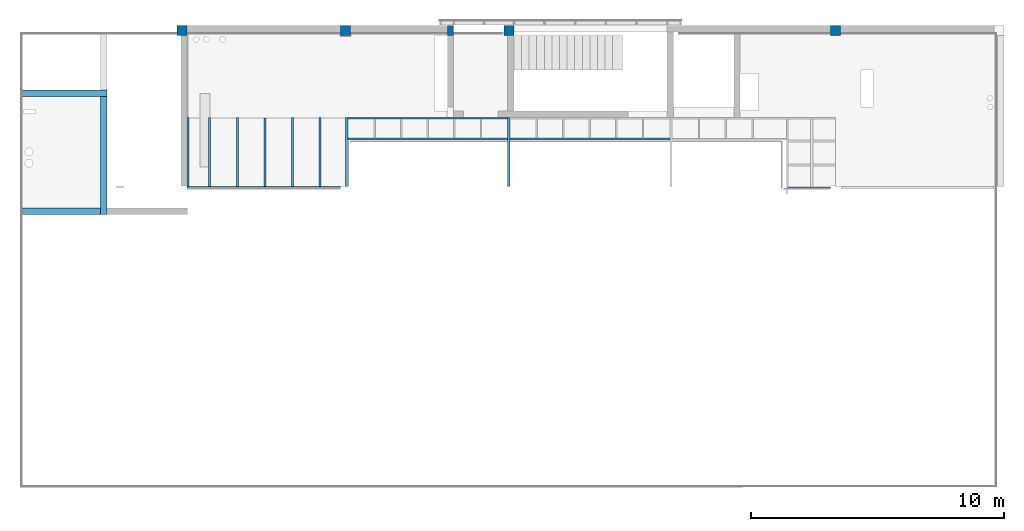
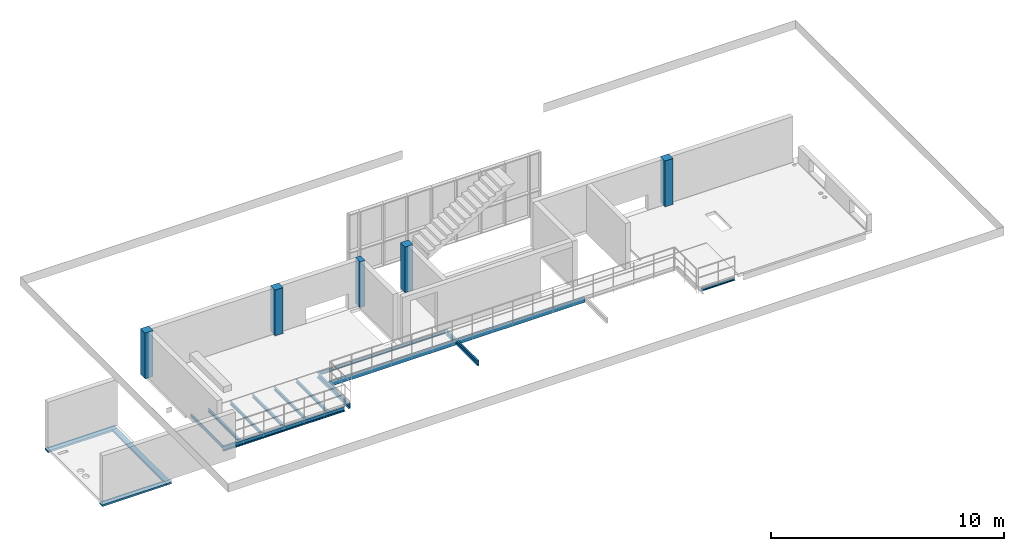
# One storey, part 1 of 8: 16 beams, 5 columns.
"""IFC2X3 building model written with IfcOpenShell, lengths in centimetres."""

from ifc_helpers import new_model, entity, si_unit, converted_unit, derived_unit, direction, frame, frame_2d, origin, origin_2d_with_axis, place, context, subcontext, project, spatial, polyline, circle_curve, parameter, trimmed, segment, composite_curve, rectangle, i_section, outline, extrude, source, transform, mapped, material, type_object, type_shapes, element, save


model = new_model("IFC2X3")

# Units and contexts
model_context = context("Model", 3, precision=0.001, world=origin(), true_north=direction((6.12303176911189e-17, 1.0)))
body_context = subcontext(model_context, "Body", "Model", "MODEL_VIEW")
ifc_project = project(units=[si_unit("LENGTHUNIT", "METRE", prefix="CENTI"), si_unit("AREAUNIT", "SQUARE_METRE"), si_unit("VOLUMEUNIT", "CUBIC_METRE"), converted_unit("PLANEANGLEUNIT", "DEGREE", entity("IfcRatioMeasure", 0.0174532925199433), si_unit("PLANEANGLEUNIT", "RADIAN"), dimensions=[0, 0, 0, 0, 0, 0, 0]), si_unit("MASSUNIT", "GRAM", prefix="KILO"), derived_unit("MASSDENSITYUNIT", [(si_unit("MASSUNIT", "GRAM", prefix="KILO"), 1), (si_unit("LENGTHUNIT", "METRE"), -3)]), derived_unit("MOMENTOFINERTIAUNIT", [(si_unit("LENGTHUNIT", "METRE"), 4)]), si_unit("TIMEUNIT", "SECOND"), si_unit("FREQUENCYUNIT", "HERTZ"), si_unit("THERMODYNAMICTEMPERATUREUNIT", "DEGREE_CELSIUS"), derived_unit("THERMALTRANSMITTANCEUNIT", [(si_unit("MASSUNIT", "GRAM", prefix="KILO"), 1), (si_unit("THERMODYNAMICTEMPERATUREUNIT", "KELVIN"), -1), (si_unit("TIMEUNIT", "SECOND"), -3)]), derived_unit("VOLUMETRICFLOWRATEUNIT", [(si_unit("LENGTHUNIT", "METRE"), 3), (si_unit("TIMEUNIT", "SECOND"), -1)]), si_unit("ELECTRICCURRENTUNIT", "AMPERE"), si_unit("ELECTRICVOLTAGEUNIT", "VOLT"), si_unit("POWERUNIT", "WATT"), si_unit("FORCEUNIT", "NEWTON", prefix="KILO"), si_unit("ILLUMINANCEUNIT", "LUX"), si_unit("LUMINOUSFLUXUNIT", "LUMEN"), si_unit("LUMINOUSINTENSITYUNIT", "CANDELA"), derived_unit("USERDEFINED", [(si_unit("MASSUNIT", "GRAM", prefix="KILO"), -1), (si_unit("LENGTHUNIT", "METRE"), -2), (si_unit("TIMEUNIT", "SECOND"), 3), (si_unit("LUMINOUSFLUXUNIT", "LUMEN"), 1)]), derived_unit("LINEARVELOCITYUNIT", [(si_unit("LENGTHUNIT", "METRE"), 1), (si_unit("TIMEUNIT", "SECOND"), -1)]), si_unit("PRESSUREUNIT", "PASCAL"), derived_unit("USERDEFINED", [(si_unit("LENGTHUNIT", "METRE"), -2), (si_unit("MASSUNIT", "GRAM", prefix="KILO"), 1), (si_unit("TIMEUNIT", "SECOND"), -2)]), derived_unit("LINEARFORCEUNIT", [(si_unit("MASSUNIT", "GRAM", prefix="KILO"), 1), (si_unit("LENGTHUNIT", "METRE"), 1), (si_unit("TIMEUNIT", "SECOND"), -2), (si_unit("LENGTHUNIT", "METRE"), -1)]), derived_unit("PLANARFORCEUNIT", [(si_unit("MASSUNIT", "GRAM", prefix="KILO"), 1), (si_unit("LENGTHUNIT", "METRE"), 1), (si_unit("TIMEUNIT", "SECOND"), -2), (si_unit("LENGTHUNIT", "METRE"), -2)])], contexts=[model_context])

# Site, building, storey
site_placement = place(None, origin())
site = spatial("IfcSite", under=ifc_project, at=site_placement, Name="Default", CompositionType="ELEMENT")
building_placement = place(site_placement, origin())
building = spatial("IfcBuilding", under=site, at=building_placement, CompositionType="ELEMENT")
storey_placement = place(building_placement, frame((0.0, 0.0, 290.0)))
storey = spatial("IfcBuildingStorey", under=building, at=storey_placement, Name="Poziom Antresola +2,90", CompositionType="ELEMENT", Elevation=290.0)

# Columns
ifc_material_1 = material(Name="_Beton, C25/30")
column_type_1 = type_object("IfcColumnType", Name="Beton-słup prostokątny:Słup żelbetowy 40x40cm", PredefinedType="COLUMN", material=ifc_material_1)
shared_shape_1 = source(origin(), body_context, "Body", "SweptSolid", [
    extrude(rectangle(XDim=40.0, YDim=40.0, at=origin_2d_with_axis()), frame((-979.265108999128, 2085.1274520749, 290.0), z_axis=(0.0, 0.0, 1.0), x_axis=(0.0, -1.0, 0.0)), (0.0, 0.0, 1.0), 239.999999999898),
])
type_shapes(column_type_1, [shared_shape_1])
column_1_placement = place(storey_placement, frame((0.0, 0.0, -290.0)))
element("IfcColumn", 1, at=column_1_placement, inside=storey, type_object=column_type_1, Name="Beton-słup prostokątny:Słup żelbetowy 40x40cm", ObjectType="Beton-słup prostokątny:Słup żelbetowy 40x40cm", context=body_context, shape_type="MappedRepresentation", body=[
    mapped(shared_shape_1, transform((0.0, 0.0, 0.0), scale=1.0)),
])
column_type_2 = type_object("IfcColumnType", Name="Beton-słup prostokątny:Słup żelbetowy 40x40cm", PredefinedType="COLUMN", material=ifc_material_1)
shared_shape_2 = source(origin(), body_context, "Body", "SweptSolid", [
    extrude(rectangle(XDim=40.0, YDim=40.0, at=frame_2d((0.0, -2.16715534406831e-13), x_axis=(1.0, 0.0))), frame((-2269.26510657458, 2085.12745207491, 290.0), z_axis=(0.0, 0.0, 1.0), x_axis=(0.0, -1.0, 0.0)), (0.0, 0.0, 1.0), 239.999999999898),
])
type_shapes(column_type_2, [shared_shape_2])
column_2_placement = place(storey_placement, frame((0.0, 0.0, -290.0)))
element("IfcColumn", 2, at=column_2_placement, inside=storey, type_object=column_type_2, Name="Beton-słup prostokątny:Słup żelbetowy 40x40cm", ObjectType="Beton-słup prostokątny:Słup żelbetowy 40x40cm", context=body_context, shape_type="MappedRepresentation", body=[
    mapped(shared_shape_2, transform((0.0, 0.0, 0.0), scale=1.0)),
])
column_type_3 = type_object("IfcColumnType", Name="Beton-słup prostokątny:Słup żelbetowy 40x40cm", PredefinedType="COLUMN", material=ifc_material_1)
shared_shape_3 = source(origin(), body_context, "Body", "SweptSolid", [
    extrude(rectangle(XDim=40.0, YDim=40.0, at=frame_2d((2.16715534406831e-13, 0.0), x_axis=(1.0, 0.0))), frame((-1624.26510899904, 2085.12745207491, 290.0), z_axis=(0.0, 0.0, 1.0), x_axis=(0.0, -1.0, 0.0)), (0.0, 0.0, 1.0), 239.999999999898),
])
type_shapes(column_type_3, [shared_shape_3])
column_3_placement = place(storey_placement, frame((0.0, 0.0, -290.0)))
element("IfcColumn", 3, at=column_3_placement, inside=storey, type_object=column_type_3, Name="Beton-słup prostokątny:Słup żelbetowy 40x40cm", ObjectType="Beton-słup prostokątny:Słup żelbetowy 40x40cm", context=body_context, shape_type="MappedRepresentation", body=[
    mapped(shared_shape_3, transform((0.0, 0.0, 0.0), scale=1.0)),
])
column_type_4 = type_object("IfcColumnType", Name="Beton-słup prostokątny:Słup żelbetowy 40x40cm", PredefinedType="COLUMN", material=ifc_material_1)
shared_shape_4 = source(origin(), body_context, "Body", "SweptSolid", [
    extrude(rectangle(XDim=40.0, YDim=40.0, at=origin_2d_with_axis()), frame((310.734891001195, 2085.1274520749, 290.0), z_axis=(0.0, 0.0, 1.0), x_axis=(0.0, -1.0, 0.0)), (0.0, 0.0, 1.0), 239.999999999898),
])
type_shapes(column_type_4, [shared_shape_4])
column_4_placement = place(storey_placement, frame((0.0, 0.0, -290.0)))
element("IfcColumn", 4, at=column_4_placement, inside=storey, type_object=column_type_4, Name="Beton-słup prostokątny:Słup żelbetowy 40x40cm", ObjectType="Beton-słup prostokątny:Słup żelbetowy 40x40cm", context=body_context, shape_type="MappedRepresentation", body=[
    mapped(shared_shape_4, transform((0.0, 0.0, 0.0), scale=1.0)),
])
column_type_5 = type_object("IfcColumnType", Name="Beton-słup prostokątny:Słup 25 x 40 cm", PredefinedType="COLUMN", material=ifc_material_1)
shared_shape_5 = source(origin(), body_context, "Body", "SweptSolid", [
    extrude(rectangle(XDim=40.0, YDim=24.9999999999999, at=frame_2d((2.16715534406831e-13, 0.0), x_axis=(1.0, 0.0))), frame((-1209.26508927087, 2085.12745207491, 290.0), z_axis=(0.0, 0.0, 1.0), x_axis=(0.0, -1.0, 0.0)), (0.0, 0.0, 1.0), 239.999999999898),
])
type_shapes(column_type_5, [shared_shape_5])
column_5_placement = place(storey_placement, frame((0.0, 0.0, -290.0)))
element("IfcColumn", 5, at=column_5_placement, inside=storey, type_object=column_type_5, Name="Beton-słup prostokątny:Słup 25 x 40 cm", ObjectType="Beton-słup prostokątny:Słup 25 x 40 cm", context=body_context, shape_type="MappedRepresentation", body=[
    mapped(shared_shape_5, transform((0.0, 0.0, 0.0), scale=1.0)),
])

# Beams
ifc_material_2 = material(Name="_Beton C30/37")
beam_type_1 = type_object("IfcBeamType", Name="Beton-belka prostokątna:BELKA ŻELBETOWA 10x25", PredefinedType="NOTDEFINED")
beam_1_placement = place(storey_placement, frame((-2921.76510525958, 1837.5274520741, -25.0)))
element("IfcBeam", 6, at=beam_1_placement, inside=storey, type_object=beam_type_1, material=ifc_material_2, Name="Beton-belka prostokątna:BELKA ŻELBETOWA 10x25", ObjectType="Beton-belka prostokątna:BELKA ŻELBETOWA 10x25", context=body_context, shape_type="SweptSolid", body=[
    extrude(rectangle(XDim=10.0, YDim=25.0000000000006, at=frame_2d((0.0, 9.74331726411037e-13), x_axis=(1.0, 0.0))), frame((12.4999999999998, 0.0, 5.0), z_axis=(1.0, 0.0, 0.0), x_axis=(0.0, 0.0, -1.0)), (0.0, 0.0, 1.0), 343.49998874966),
])
beam_2_placement = place(storey_placement, frame((-2578.26511650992, 1835.12745234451, -25.0), z_axis=(0.0, 0.0, 1.0), x_axis=(0.0, -1.0, 0.0)))
element("IfcBeam", 7, at=beam_2_placement, inside=storey, type_object=beam_type_1, material=ifc_material_2, Name="Beton-belka prostokątna:BELKA ŻELBETOWA 10x25", ObjectType="Beton-belka prostokątna:BELKA ŻELBETOWA 10x25", context=body_context, shape_type="SweptSolid", body=[
    extrude(rectangle(XDim=10.0, YDim=25.0000000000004, at=origin_2d_with_axis()), frame((10.1000002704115, 0.0, 5.0), z_axis=(1.0, 0.0, 0.0), x_axis=(0.0, 0.0, -1.0)), (0.0, 0.0, 1.0), 465.899999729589),
])
beam_3_placement = place(storey_placement, frame((-2590.76511650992, 1371.62745072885, -25.0), z_axis=(0.0, 0.0, 1.0), x_axis=(-1.0, 0.0, 0.0)))
element("IfcBeam", 8, at=beam_3_placement, inside=storey, type_object=beam_type_1, material=ifc_material_2, Name="Beton-belka prostokątna:BELKA ŻELBETOWA 10x25", ObjectType="Beton-belka prostokątna:BELKA ŻELBETOWA 10x25", context=body_context, shape_type="SweptSolid", body=[
    extrude(rectangle(XDim=10.0, YDim=25.0000000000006, at=frame_2d((0.0, 1.19104726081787e-12), x_axis=(1.0, 0.0))), frame((0.0, 0.0, 5.0), z_axis=(1.0, 0.0, 0.0), x_axis=(0.0, 0.0, -1.0)), (0.0, 0.0, 1.0), 318.499987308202),
])
ifc_material_3 = material(Name="Stal konstrukcyjna - S235")
beam_type_2 = type_object("IfcBeamType", Name="C:C260", PredefinedType="NOTDEFINED")
beam_4_placement = place(storey_placement, frame((-1642.45028865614, 1467.76745194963, 0.0), z_axis=(0.0, 0.0, 1.0), x_axis=(-1.0, 0.0, 0.0)))
element("IfcBeam", 9, at=beam_4_placement, inside=storey, type_object=beam_type_2, material=ifc_material_3, Name="C:C260", ObjectType="C:C260", context=body_context, shape_type="SweptSolid", body=[
    extrude(outline(composite_curve([segment(polyline([(-13.0, -4.94070434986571), (13.0, -4.94070434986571)]), True, "CONTINUOUS"), segment(polyline([(13.0, -4.94070434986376), (13.0, 4.05929565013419)]), True, "CONTINUOUS"), segment(polyline([(13.0, 4.05929565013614), (12.6059708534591, 4.05929565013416)]), True, "CONTINUOUS"), segment(trimmed(circle_curve(frame_2d((12.6059708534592, 3.35929565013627), x_axis=(0.0, 1.0)), 0.700000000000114), [parameter(0.0)], [parameter(85.4299999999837)], True, "PARAMETER"), True, "CONTINUOUS"), segment(polyline([(11.9081963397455, 3.41506955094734), (11.4232284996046, -2.65225215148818)]), True, "CONTINUOUS"), segment(trimmed(circle_curve(frame_2d((10.0276794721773, -2.54070434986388), x_axis=(0.996820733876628, -0.079677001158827)), 1.39999999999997), [parameter(274.569999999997)], [parameter(0.0)], True, "PARAMETER"), False, "CONTINUOUS"), segment(polyline([(10.0276794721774, -3.94070434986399), (-10.0276794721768, -3.94070434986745)]), True, "CONTINUOUS"), segment(trimmed(circle_curve(frame_2d((-10.0276794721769, -2.54070434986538), x_axis=(0.0, -1.0)), 1.39999999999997), [parameter(274.569999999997)], [parameter(0.0)], True, "PARAMETER"), False, "CONTINUOUS"), segment(polyline([(-11.4232284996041, -2.65225215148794), (-11.9081963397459, 3.41506955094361)]), True, "CONTINUOUS"), segment(trimmed(circle_curve(frame_2d((-12.6059708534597, 3.35929565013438), x_axis=(0.99682073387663, 0.079677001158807)), 0.70000000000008), [parameter(0.0)], [parameter(85.4300000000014)], True, "PARAMETER"), True, "CONTINUOUS"), segment(polyline([(-12.6059708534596, 4.05929565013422), (-13.0, 4.05929565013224)]), True, "CONTINUOUS"), segment(polyline([(-13.0, 4.0592956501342), (-13.0, -4.94070434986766)]), True, "CONTINUOUS")], self_intersect=False)), frame((1.81241528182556, 2.58070434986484, -16.0), z_axis=(1.0, 0.0, 0.0), x_axis=(0.0, 0.0, -1.0)), (0.0, 0.0, 1.0), 605.01),
])
beam_5_placement = place(storey_placement, frame((-1616.62513766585, 1755.62745200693, 0.0), z_axis=(0.0, 0.0, 1.0), x_axis=(0.0, -1.0, 0.0)))
element("IfcBeam", 10, at=beam_5_placement, inside=storey, type_object=beam_type_2, material=ifc_material_3, Name="C:C260", ObjectType="C:C260", context=body_context, shape_type="SweptSolid", body=[
    extrude(outline(composite_curve([segment(polyline([(12.6059708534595, -4.05929565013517), (13.0, -4.05929565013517)]), True, "CONTINUOUS"), segment(polyline([(13.0, -4.05929565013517), (13.0, 4.94070434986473)]), True, "CONTINUOUS"), segment(polyline([(13.0, 4.94070434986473), (-13.0, 4.94070434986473)]), True, "CONTINUOUS"), segment(polyline([(-13.0, 4.94070434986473), (-13.0, -4.05929565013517)]), True, "CONTINUOUS"), segment(polyline([(-13.0, -4.05929565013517), (-12.6059708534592, -4.05929565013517)]), True, "CONTINUOUS"), segment(trimmed(circle_curve(frame_2d((-12.6059708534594, -3.35929565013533), x_axis=(0.0, -1.0)), 0.70000000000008), [parameter(0.0)], [parameter(85.4300000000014)], True, "PARAMETER"), True, "CONTINUOUS"), segment(polyline([(-11.9081963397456, -3.41506955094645), (-11.4232284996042, 2.65225215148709)]), True, "CONTINUOUS"), segment(trimmed(circle_curve(frame_2d((-10.027679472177, 2.54070434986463), x_axis=(-0.996820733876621, 0.0796770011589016)), 1.39999999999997), [parameter(274.569999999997)], [parameter(0.0)], True, "PARAMETER"), False, "CONTINUOUS"), segment(polyline([(-10.027679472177, 3.94070434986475), (10.0276794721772, 3.94070434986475)]), True, "CONTINUOUS"), segment(trimmed(circle_curve(frame_2d((10.0276794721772, 2.54070434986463), x_axis=(0.0, 1.0)), 1.39999999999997), [parameter(274.569999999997)], [parameter(0.0)], True, "PARAMETER"), False, "CONTINUOUS"), segment(polyline([(11.4232284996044, 2.65225215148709), (11.9081963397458, -3.41506955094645)]), True, "CONTINUOUS"), segment(trimmed(circle_curve(frame_2d((12.6059708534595, -3.35929565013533), x_axis=(-0.996820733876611, -0.0796770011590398)), 0.700000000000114), [parameter(0.0)], [parameter(85.4299999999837)], True, "PARAMETER"), True, "CONTINUOUS")], self_intersect=False)), frame((12.5008439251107, -2.58070434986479, -16.0), z_axis=(1.0, 0.0, 0.0), x_axis=(0.0, 0.0, -1.0)), (0.0, 0.0, 1.0), 273.01),
])
beam_6_placement = place(storey_placement, frame((-977.125106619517, 1755.6274519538, 0.0), z_axis=(0.0, 0.0, 1.0), x_axis=(0.0, -1.0, 0.0)))
element("IfcBeam", 11, at=beam_6_placement, inside=storey, type_object=beam_type_2, material=ifc_material_3, Name="C:C260", ObjectType="C:C260", context=body_context, shape_type="SweptSolid", body=[
    extrude(outline(composite_curve([segment(polyline([(12.6059708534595, -4.05929565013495), (13.0, -4.05929565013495)]), True, "CONTINUOUS"), segment(polyline([(13.0, -4.05929565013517), (13.0, 4.94070434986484)]), True, "CONTINUOUS"), segment(polyline([(13.0, 4.94070434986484), (-13.0, 4.94070434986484)]), True, "CONTINUOUS"), segment(polyline([(-13.0, 4.94070434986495), (-13.0, -4.05929565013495)]), True, "CONTINUOUS"), segment(polyline([(-13.0, -4.05929565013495), (-12.6059708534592, -4.05929565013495)]), True, "CONTINUOUS"), segment(trimmed(circle_curve(frame_2d((-12.6059708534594, -3.35929565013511), x_axis=(0.0, -1.0)), 0.70000000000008), [parameter(0.0)], [parameter(85.4300000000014)], True, "PARAMETER"), True, "CONTINUOUS"), segment(polyline([(-11.9081963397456, -3.41506955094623), (-11.4232284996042, 2.6522521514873)]), True, "CONTINUOUS"), segment(trimmed(circle_curve(frame_2d((-10.027679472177, 2.54070434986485), x_axis=(-0.996820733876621, 0.0796770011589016)), 1.39999999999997), [parameter(274.569999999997)], [parameter(0.0)], True, "PARAMETER"), False, "CONTINUOUS"), segment(polyline([(-10.027679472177, 3.94070434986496), (10.0276794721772, 3.94070434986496)]), True, "CONTINUOUS"), segment(trimmed(circle_curve(frame_2d((10.0276794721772, 2.54070434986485), x_axis=(0.0, 1.0)), 1.39999999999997), [parameter(274.569999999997)], [parameter(0.0)], True, "PARAMETER"), False, "CONTINUOUS"), segment(polyline([(11.4232284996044, 2.6522521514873), (11.9081963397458, -3.41506955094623)]), True, "CONTINUOUS"), segment(trimmed(circle_curve(frame_2d((12.6059708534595, -3.35929565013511), x_axis=(-0.996820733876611, -0.0796770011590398)), 0.700000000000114), [parameter(0.0)], [parameter(85.4299999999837)], True, "PARAMETER"), True, "CONTINUOUS")], self_intersect=False)), frame((12.5, -2.580704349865, -16.0), z_axis=(1.0, 0.0, 0.0), x_axis=(0.0, 0.0, -1.0)), (0.0, 0.0, 1.0), 272.999999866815),
])
beam_7_placement = place(storey_placement, frame((-983.751781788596, 1655.4874521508, 0.0), z_axis=(0.0, 0.0, 1.0), x_axis=(-1.0, 0.0, 0.0)))
element("IfcBeam", 12, at=beam_7_placement, inside=storey, type_object=beam_type_2, material=ifc_material_3, Name="C:C260", ObjectType="C:C260", context=body_context, shape_type="SweptSolid", body=[
    extrude(outline(composite_curve([segment(polyline([(12.6059708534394, -4.05929565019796), (13.0, -4.05929565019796)]), True, "CONTINUOUS"), segment(polyline([(13.0, -4.05929565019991), (13.0, 4.94070434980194)]), True, "CONTINUOUS"), segment(polyline([(13.0, 4.94070434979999), (-13.0, 4.94070434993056)]), True, "CONTINUOUS"), segment(polyline([(-13.0, 4.94070434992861), (-13.0, -4.05929565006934)]), True, "CONTINUOUS"), segment(polyline([(-13.0, -4.05929565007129), (-12.6059708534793, -4.05929565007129)]), True, "CONTINUOUS"), segment(trimmed(circle_curve(frame_2d((-12.605970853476, -3.35929565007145), x_axis=(0.0, -1.0)), 0.70000000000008), [parameter(0.0)], [parameter(85.4300000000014)], True, "PARAMETER"), True, "CONTINUOUS"), segment(polyline([(-11.9081963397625, -3.41506955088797), (-11.4232284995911, 2.65225215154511)]), True, "CONTINUOUS"), segment(trimmed(circle_curve(frame_2d((-10.0276794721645, 2.54070434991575), x_axis=(-0.996820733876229, 0.0796770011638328)), 1.39999999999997), [parameter(274.569999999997)], [parameter(0.0)], True, "PARAMETER"), False, "CONTINUOUS"), segment(polyline([(-10.0276794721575, 3.94070434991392), (10.0276794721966, 3.94070434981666)]), True, "CONTINUOUS"), segment(trimmed(circle_curve(frame_2d((10.0276794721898, 2.54070434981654), x_axis=(0.0, 1.0)), 1.39999999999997), [parameter(274.569999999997)], [parameter(0.0)], True, "PARAMETER"), False, "CONTINUOUS"), segment(polyline([(11.4232284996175, 2.65225215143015), (11.9081963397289, -3.41506955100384)]), True, "CONTINUOUS"), segment(trimmed(circle_curve(frame_2d((12.6059708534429, -3.35929565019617), x_axis=(-0.996820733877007, -0.0796770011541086)), 0.700000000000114), [parameter(0.0)], [parameter(85.4299999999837)], True, "PARAMETER"), True, "CONTINUOUS")], self_intersect=False)), frame((0.0133248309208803, -2.58070434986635, -16.0), z_axis=(1.0, 0.0, 0.0), x_axis=(0.0, 0.0, -1.0)), (0.0, 0.0, 1.0), 630.508353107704),
])
beam_8_placement = place(storey_placement, frame((-350.123471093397, 1655.48745215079, 0.0), z_axis=(0.0, 0.0, 1.0), x_axis=(-1.0, 0.0, 0.0)))
element("IfcBeam", 13, at=beam_8_placement, inside=storey, type_object=beam_type_2, material=ifc_material_3, Name="C:C260", ObjectType="C:C260", context=body_context, shape_type="SweptSolid", body=[
    extrude(outline(composite_curve([segment(polyline([(12.6059708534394, -4.05929565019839), (13.0, -4.05929565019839)]), True, "CONTINUOUS"), segment(polyline([(13.0, -4.05929565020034), (13.0, 4.94070434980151)]), True, "CONTINUOUS"), segment(polyline([(13.0, 4.94070434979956), (-13.0, 4.94070434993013)]), True, "CONTINUOUS"), segment(polyline([(-13.0, 4.94070434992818), (-13.0, -4.05929565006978)]), True, "CONTINUOUS"), segment(polyline([(-13.0, -4.05929565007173), (-12.6059708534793, -4.05929565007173)]), True, "CONTINUOUS"), segment(trimmed(circle_curve(frame_2d((-12.605970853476, -3.35929565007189), x_axis=(0.0, -1.0)), 0.70000000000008), [parameter(0.0)], [parameter(85.4300000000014)], True, "PARAMETER"), True, "CONTINUOUS"), segment(polyline([(-11.9081963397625, -3.41506955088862), (-11.4232284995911, 2.65225215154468)]), True, "CONTINUOUS"), segment(trimmed(circle_curve(frame_2d((-10.0276794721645, 2.54070434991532), x_axis=(-0.996820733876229, 0.0796770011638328)), 1.39999999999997), [parameter(274.569999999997)], [parameter(0.0)], True, "PARAMETER"), False, "CONTINUOUS"), segment(polyline([(-10.0276794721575, 3.94070434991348), (10.0276794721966, 3.94070434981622)]), True, "CONTINUOUS"), segment(trimmed(circle_curve(frame_2d((10.0276794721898, 2.54070434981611), x_axis=(0.0, 1.0)), 1.39999999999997), [parameter(274.569999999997)], [parameter(0.0)], True, "PARAMETER"), False, "CONTINUOUS"), segment(polyline([(11.4232284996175, 2.65225215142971), (11.9081963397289, -3.41506955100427)]), True, "CONTINUOUS"), segment(trimmed(circle_curve(frame_2d((12.6059708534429, -3.3592956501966), x_axis=(-0.996820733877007, -0.0796770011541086)), 0.700000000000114), [parameter(0.0)], [parameter(85.4299999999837)], True, "PARAMETER"), True, "CONTINUOUS")], self_intersect=False)), frame((-6.85833387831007, -2.58070434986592, -16.0), z_axis=(1.0, 0.0, 0.0), x_axis=(0.0, 0.0, -1.0)), (0.0, 0.0, 1.0), 631.499969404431),
])
beam_type_3 = type_object("IfcBeamType", Name="C:C160", PredefinedType="NOTDEFINED")
beam_9_placement = place(storey_placement, frame((-2247.4251502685, 1470.12745208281, 0.0), z_axis=(0.0, 0.0, 1.0), x_axis=(0.0, 1.0, 0.0)))
element("IfcBeam", 14, at=beam_9_placement, inside=storey, type_object=beam_type_3, material=ifc_material_3, Name="C:C160", ObjectType="C:C160", context=body_context, shape_type="SweptSolid", body=[
    extrude(outline(composite_curve([segment(polyline([(7.71756820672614, -2.92330641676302), (8.0, -2.92330641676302)]), True, "CONTINUOUS"), segment(polyline([(8.0, -2.92330641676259), (8.0, 3.57669358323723)]), True, "CONTINUOUS"), segment(polyline([(8.0, 3.57669358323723), (-8.0, 3.57669358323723)]), True, "CONTINUOUS"), segment(polyline([(-8.0, 3.5766935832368), (-8.0, -2.92330641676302)]), True, "CONTINUOUS"), segment(polyline([(-8.0, -2.92330641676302), (-7.71756820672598, -2.92330641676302)]), True, "CONTINUOUS"), segment(trimmed(circle_curve(frame_2d((-7.71756820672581, -2.37330641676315), x_axis=(0.0, -1.0)), 0.549999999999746), [parameter(0.0)], [parameter(85.4300000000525)], True, "PARAMETER"), True, "CONTINUOUS"), segment(polyline([(-7.16931680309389, -2.4171287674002), (-6.82741276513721, 1.86035443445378)]), True, "CONTINUOUS"), segment(trimmed(circle_curve(frame_2d((-5.78075099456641, 1.77669358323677), x_axis=(-0.996820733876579, 0.0796770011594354)), 1.0500000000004), [parameter(274.570000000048)], [parameter(0.0)], True, "PARAMETER"), False, "CONTINUOUS"), segment(polyline([(-5.78075099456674, 2.82669358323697), (5.78075099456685, 2.82669358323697)]), True, "CONTINUOUS"), segment(trimmed(circle_curve(frame_2d((5.78075099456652, 1.77669358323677), x_axis=(0.0, 1.0)), 1.0500000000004), [parameter(274.570000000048)], [parameter(0.0)], True, "PARAMETER"), False, "CONTINUOUS"), segment(polyline([(6.82741276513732, 1.86035443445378), (7.169316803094, -2.4171287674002)]), True, "CONTINUOUS"), segment(trimmed(circle_curve(frame_2d((7.71756820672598, -2.37330641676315), x_axis=(-0.996820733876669, -0.0796770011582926)), 0.549999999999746), [parameter(0.0)], [parameter(85.4300000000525)], True, "PARAMETER"), True, "CONTINUOUS")], self_intersect=False)), frame((-0.0100000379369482, -1.73669358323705, -11.0), z_axis=(1.0, 0.0, 0.0), x_axis=(0.0, 0.0, -1.0)), (0.0, 0.0, 1.0), 273.02),
])
beam_10_placement = place(storey_placement, frame((-983.751781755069, 1741.28745231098, 0.0), z_axis=(0.0, 0.0, 1.0), x_axis=(-1.0, 0.0, 0.0)))
element("IfcBeam", 15, at=beam_10_placement, inside=storey, type_object=beam_type_3, material=ifc_material_3, Name="C:C160", ObjectType="C:C160", context=body_context, shape_type="SweptSolid", body=[
    extrude(outline(composite_curve([segment(polyline([(-8.0, -3.57669358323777), (8.0, -3.57669358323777)]), True, "CONTINUOUS"), segment(polyline([(8.0, -3.57669358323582), (8.0, 2.92330641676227)]), True, "CONTINUOUS"), segment(polyline([(8.0, 2.923306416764), (7.71756820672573, 2.92330641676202)]), True, "CONTINUOUS"), segment(trimmed(circle_curve(frame_2d((7.71756820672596, 2.37330641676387), x_axis=(0.0, 1.0)), 0.550000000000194), [parameter(0.0)], [parameter(85.4299999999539)], True, "PARAMETER"), True, "CONTINUOUS"), segment(polyline([(7.16931680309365, 2.41712876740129), (6.82741276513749, -1.8603544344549)]), True, "CONTINUOUS"), segment(trimmed(circle_curve(frame_2d((5.78075099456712, -1.77669358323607), x_axis=(0.996820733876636, -0.0796770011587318)), 1.04999999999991), [parameter(274.569999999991)], [parameter(0.0)], True, "PARAMETER"), False, "CONTINUOUS"), segment(polyline([(5.78075099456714, -2.82669358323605), (-5.78075099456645, -2.8266935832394)]), True, "CONTINUOUS"), segment(trimmed(circle_curve(frame_2d((-5.78075099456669, -1.77669358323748), x_axis=(0.0, -1.0)), 1.04999999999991), [parameter(274.569999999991)], [parameter(0.0)], True, "PARAMETER"), False, "CONTINUOUS"), segment(polyline([(-6.82741276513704, -1.86035443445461), (-7.16931680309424, 2.41712876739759)]), True, "CONTINUOUS"), segment(trimmed(circle_curve(frame_2d((-7.71756820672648, 2.37330641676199), x_axis=(0.99682073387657, 0.0796770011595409)), 0.550000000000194), [parameter(0.0)], [parameter(85.4299999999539)], True, "PARAMETER"), True, "CONTINUOUS"), segment(polyline([(-7.71756820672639, 2.92330641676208), (-8.0, 2.9233064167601)]), True, "CONTINUOUS"), segment(polyline([(-8.0, 2.92330641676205), (-8.0, -3.57669358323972)]), True, "CONTINUOUS")], self_intersect=False)), frame((0.00167795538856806, 1.736693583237, -11.0), z_axis=(1.0, 0.0, 0.0), x_axis=(0.0, 0.0, -1.0)), (0.0, 0.0, 1.0), 630.52),
])
beam_11_placement = place(storey_placement, frame((123.234891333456, 1465.28745211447, 0.0)))
element("IfcBeam", 16, at=beam_11_placement, inside=storey, type_object=beam_type_3, material=ifc_material_3, Name="C:C160", ObjectType="C:C160", context=body_context, shape_type="SweptSolid", body=[
    extrude(outline(composite_curve([segment(polyline([(7.71756820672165, -2.92330641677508), (8.0, -2.92330641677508)]), True, "CONTINUOUS"), segment(polyline([(8.0, -2.92330641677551), (8.0, 3.57669358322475)]), True, "CONTINUOUS"), segment(polyline([(8.0, 3.57669358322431), (-8.0, 3.57669358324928)]), True, "CONTINUOUS"), segment(polyline([(-8.0, 3.57669358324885), (-8.0, -2.92330641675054)]), True, "CONTINUOUS"), segment(polyline([(-8.0, -2.92330641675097), (-7.71756820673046, -2.92330641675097)]), True, "CONTINUOUS"), segment(trimmed(circle_curve(frame_2d((-7.71756820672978, -2.37330641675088), x_axis=(0.0, -1.0)), 0.550000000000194), [parameter(0.0)], [parameter(85.4299999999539)], True, "PARAMETER"), True, "CONTINUOUS"), segment(polyline([(-7.1693168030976, -2.41712876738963), (-6.82741276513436, 1.86035443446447)]), True, "CONTINUOUS"), segment(trimmed(circle_curve(frame_2d((-5.78075099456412, 1.77669358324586), x_axis=(-0.996820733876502, 0.079677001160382)), 1.04999999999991), [parameter(274.569999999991)], [parameter(0.0)], True, "PARAMETER"), False, "CONTINUOUS"), segment(polyline([(-5.7807509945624, 2.8266935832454), (5.78075099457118, 2.8266935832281)]), True, "CONTINUOUS"), segment(trimmed(circle_curve(frame_2d((5.78075099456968, 1.77669358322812), x_axis=(0.0, 1.0)), 1.04999999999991), [parameter(274.569999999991)], [parameter(0.0)], True, "PARAMETER"), False, "CONTINUOUS"), segment(polyline([(6.82741276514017, 1.86035443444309), (7.16931680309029, -2.41712876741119)]), True, "CONTINUOUS"), segment(trimmed(circle_curve(frame_2d((7.71756820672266, -2.37330641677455), x_axis=(-0.996820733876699, -0.0796770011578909)), 0.550000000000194), [parameter(0.0)], [parameter(85.4299999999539)], True, "PARAMETER"), True, "CONTINUOUS")], self_intersect=False)), frame((3.6044384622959e-06, -1.73669358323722, -11.0), z_axis=(1.0, 0.0, 0.0), x_axis=(0.0, 0.0, -1.0)), (0.0, 0.0, 1.0), 167.504991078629),
])
beam_type_4 = type_object("IfcBeamType", Name="IPE:IPE160", PredefinedType="NOTDEFINED")
beam_12_placement = place(storey_placement, frame((-2160.2651372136, 1474.09783622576, 0.0), z_axis=(0.0, 0.0, 1.0), x_axis=(0.0, 1.0, 0.0)))
element("IfcBeam", 17, at=beam_12_placement, inside=storey, type_object=beam_type_4, material=ifc_material_3, Name="IPE:IPE160", ObjectType="IPE:IPE160", context=body_context, shape_type="SweptSolid", body=[
    extrude(i_section(OverallWidth=8.19999999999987, OverallDepth=16.0, WebThickness=0.499999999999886, FlangeThickness=0.740000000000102, FilletRadius=0.899999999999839, at=frame_2d((8.12683254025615e-14, 0.0), x_axis=(0.0, 1.0))), frame((-3.9703842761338, 0.0, -11.0), z_axis=(1.0, 0.0, 0.0), x_axis=(0.0, 0.0, -1.0)), (0.0, 0.0, 1.0), 273.000000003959),
])
beam_13_placement = place(storey_placement, frame((-2051.26513721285, 1737.21934057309, 0.0), z_axis=(0.0, 0.0, 1.0), x_axis=(0.0, -1.0, 0.0)))
element("IfcBeam", 18, at=beam_13_placement, inside=storey, type_object=beam_type_4, material=ifc_material_3, Name="IPE:IPE160", ObjectType="IPE:IPE160", context=body_context, shape_type="SweptSolid", body=[
    extrude(i_section(OverallWidth=8.19999999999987, OverallDepth=16.0, WebThickness=0.499999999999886, FlangeThickness=0.740000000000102, FilletRadius=0.899999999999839, at=frame_2d((8.12683254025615e-14, 0.0), x_axis=(0.0, 1.0))), frame((-5.90811138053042, 0.0, -11.0), z_axis=(1.0, 0.0, 0.0), x_axis=(0.0, 0.0, -1.0)), (0.0, 0.0, 1.0), 272.99905569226),
])
beam_14_placement = place(storey_placement, frame((-1942.2651372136, 1474.09783622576, 0.0), z_axis=(0.0, 0.0, 1.0), x_axis=(0.0, 1.0, 0.0)))
element("IfcBeam", 19, at=beam_14_placement, inside=storey, type_object=beam_type_4, material=ifc_material_3, Name="IPE:IPE160", ObjectType="IPE:IPE160", context=body_context, shape_type="SweptSolid", body=[
    extrude(i_section(OverallWidth=8.20000000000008, OverallDepth=16.0, WebThickness=0.500000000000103, FlangeThickness=0.740000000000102, FilletRadius=0.900000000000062, at=frame_2d((8.12683254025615e-14, -1.08357767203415e-13), x_axis=(0.0, 1.0))), frame((-3.97038427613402, 0.0, -11.0), z_axis=(1.0, 0.0, 0.0), x_axis=(0.0, 0.0, -1.0)), (0.0, 0.0, 1.0), 270.682187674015),
])
beam_15_placement = place(storey_placement, frame((-1833.26513721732, 1737.21934057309, 0.0), z_axis=(0.0, 0.0, 1.0), x_axis=(0.0, -1.0, 0.0)))
element("IfcBeam", 20, at=beam_15_placement, inside=storey, type_object=beam_type_4, material=ifc_material_3, Name="IPE:IPE160", ObjectType="IPE:IPE160", context=body_context, shape_type="SweptSolid", body=[
    extrude(i_section(OverallWidth=8.20000000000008, OverallDepth=16.0, WebThickness=0.500000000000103, FlangeThickness=0.740000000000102, FilletRadius=0.900000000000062, at=frame_2d((8.12683254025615e-14, -3.25073301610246e-13), x_axis=(0.0, 1.0))), frame((-5.90811138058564, 0.0, -11.0), z_axis=(1.0, 0.0, 0.0), x_axis=(0.0, 0.0, -1.0)), (0.0, 0.0, 1.0), 273.000000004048),
])
beam_16_placement = place(storey_placement, frame((-1724.26513722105, 1479.03697709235, 0.0), z_axis=(0.0, 0.0, 1.0), x_axis=(0.0, 1.0, 0.0)))
element("IfcBeam", 21, at=beam_16_placement, inside=storey, type_object=beam_type_4, material=ifc_material_3, Name="IPE:IPE160", ObjectType="IPE:IPE160", context=body_context, shape_type="SweptSolid", body=[
    extrude(i_section(OverallWidth=8.20000000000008, OverallDepth=16.0, WebThickness=0.500000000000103, FlangeThickness=0.740000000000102, FilletRadius=0.900000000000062, at=frame_2d((8.12683254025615e-14, -1.08357767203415e-13), x_axis=(0.0, 1.0))), frame((-8.90952514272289, 0.0, -11.0), z_axis=(1.0, 0.0, 0.0), x_axis=(0.0, 0.0, -1.0)), (0.0, 0.0, 1.0), 273.000000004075),
])

save(model, "model.ifc")
